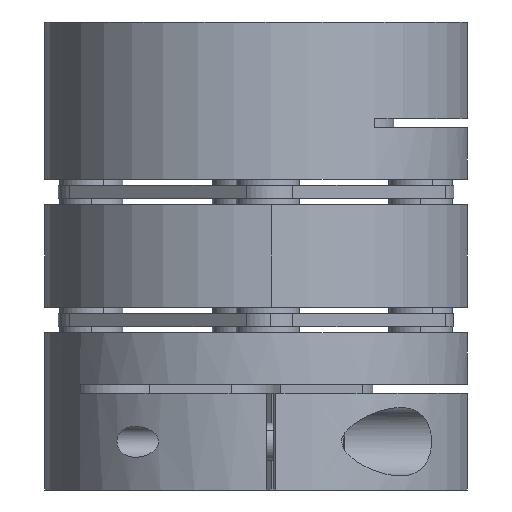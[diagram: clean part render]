
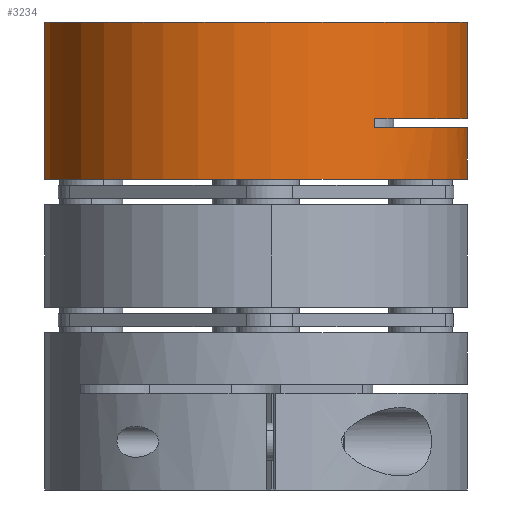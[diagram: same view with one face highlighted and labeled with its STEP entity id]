
A CAD part, front view. The second image highlights one B-rep face of the part: STEP entity #3234.
In plain terms, the highlighted cylindrical face has radius 34 mm (diameter 68 mm), a partial arc.
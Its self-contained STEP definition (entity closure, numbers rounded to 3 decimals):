
#568 = CARTESIAN_POINT ( 'NONE',  ( 11.468, 58.812, 92.727 ) ) ;
#1470 = CARTESIAN_POINT ( 'NONE',  ( 11.468, 58.812, 92.727 ) ) ;
#1622 = DIRECTION ( 'NONE',  ( 0., 0., -1. ) ) ;
#1629 = ORIENTED_EDGE ( 'NONE', *, *, #16061, .T. ) ;
#2198 = LINE ( 'NONE', #1470, #18557 ) ;
#2291 = EDGE_CURVE ( 'NONE', #6323, #14482, #12037, .T. ) ;
#3234 = ADVANCED_FACE ( 'NONE', ( #19142 ), #17121, .T. ) ;
#5124 = CIRCLE ( 'NONE', #17746, 34. ) ;
#5614 = EDGE_CURVE ( 'NONE', #18275, #16896, #5124, .T. ) ;
#5797 = CARTESIAN_POINT ( 'NONE',  ( -41.506, 84.521, 83.027 ) ) ;
#5803 = ORIENTED_EDGE ( 'NONE', *, *, #5614, .F. ) ;
#5972 = EDGE_CURVE ( 'NONE', #16896, #17310, #2198, .T. ) ;
#6032 = CARTESIAN_POINT ( 'NONE',  ( -41.506, 84.521, 108.227 ) ) ;
#6066 = CIRCLE ( 'NONE', #6526, 34. ) ;
#6124 = VECTOR ( 'NONE', #18124, 1000. ) ;
#6207 = CARTESIAN_POINT ( 'NONE',  ( -7.594, 86.967, 83.027 ) ) ;
#6323 = VERTEX_POINT ( 'NONE', #14211 ) ;
#6497 = EDGE_CURVE ( 'NONE', #6323, #17310, #18262, .T. ) ;
#6514 = CARTESIAN_POINT ( 'NONE',  ( -41.506, 84.521, 108.227 ) ) ;
#6526 = AXIS2_PLACEMENT_3D ( 'NONE', #17994, #8447, #19617 ) ;
#6597 = CARTESIAN_POINT ( 'NONE',  ( 11.468, 58.812, 91.227 ) ) ;
#7463 = AXIS2_PLACEMENT_3D ( 'NONE', #18976, #19178, #18424 ) ;
#7766 = DIRECTION ( 'NONE',  ( 0.997, 0.072, 0. ) ) ;
#8011 = ORIENTED_EDGE ( 'NONE', *, *, #16792, .F. ) ;
#8447 = DIRECTION ( 'NONE',  ( 0., 0., 1. ) ) ;
#8480 = DIRECTION ( 'NONE',  ( 0., 0., -1. ) ) ;
#9681 = CARTESIAN_POINT ( 'NONE',  ( 26.318, 89.412, 83.027 ) ) ;
#9686 = VERTEX_POINT ( 'NONE', #16747 ) ;
#10413 = AXIS2_PLACEMENT_3D ( 'NONE', #6207, #17286, #7766 ) ;
#11037 = VERTEX_POINT ( 'NONE', #6032 ) ;
#11275 = VECTOR ( 'NONE', #14587, 1000. ) ;
#11983 = ORIENTED_EDGE ( 'NONE', *, *, #2291, .F. ) ;
#12037 = LINE ( 'NONE', #18205, #6124 ) ;
#12392 = EDGE_CURVE ( 'NONE', #11037, #9686, #6066, .T. ) ;
#12504 = ORIENTED_EDGE ( 'NONE', *, *, #17171, .T. ) ;
#12879 = VECTOR ( 'NONE', #16032, 1000. ) ;
#12988 = CARTESIAN_POINT ( 'NONE',  ( 26.318, 89.412, 108.227 ) ) ;
#14018 = ORIENTED_EDGE ( 'NONE', *, *, #6497, .T. ) ;
#14211 = CARTESIAN_POINT ( 'NONE',  ( 26.318, 89.412, 91.227 ) ) ;
#14482 = VERTEX_POINT ( 'NONE', #9681 ) ;
#14587 = DIRECTION ( 'NONE',  ( 0., 0., -1. ) ) ;
#15353 = VERTEX_POINT ( 'NONE', #5797 ) ;
#15660 = ORIENTED_EDGE ( 'NONE', *, *, #5972, .F. ) ;
#15891 = EDGE_LOOP ( 'NONE', ( #8011, #16573, #1629, #12504, #11983, #14018, #15660, #5803 ) ) ;
#15962 = DIRECTION ( 'NONE',  ( -0.997, -0.072, 0. ) ) ;
#16030 = DIRECTION ( 'NONE',  ( 0., 0., -1. ) ) ;
#16032 = DIRECTION ( 'NONE',  ( 0., 0., -1. ) ) ;
#16061 = EDGE_CURVE ( 'NONE', #11037, #15353, #17611, .T. ) ;
#16098 = CARTESIAN_POINT ( 'NONE',  ( -7.594, 86.967, 92.727 ) ) ;
#16573 = ORIENTED_EDGE ( 'NONE', *, *, #12392, .F. ) ;
#16747 = CARTESIAN_POINT ( 'NONE',  ( 26.318, 89.412, 108.227 ) ) ;
#16792 = EDGE_CURVE ( 'NONE', #9686, #18275, #19760, .T. ) ;
#16896 = VERTEX_POINT ( 'NONE', #568 ) ;
#17121 = CYLINDRICAL_SURFACE ( 'NONE', #7463, 34. ) ;
#17171 = EDGE_CURVE ( 'NONE', #15353, #14482, #18699, .T. ) ;
#17286 = DIRECTION ( 'NONE',  ( 0., 0., 1. ) ) ;
#17310 = VERTEX_POINT ( 'NONE', #6597 ) ;
#17332 = CARTESIAN_POINT ( 'NONE',  ( 26.318, 89.412, 92.727 ) ) ;
#17611 = LINE ( 'NONE', #6514, #12879 ) ;
#17746 = AXIS2_PLACEMENT_3D ( 'NONE', #16098, #16030, #15962 ) ;
#17994 = CARTESIAN_POINT ( 'NONE',  ( -7.594, 86.967, 108.227 ) ) ;
#18041 = CARTESIAN_POINT ( 'NONE',  ( -7.594, 86.967, 91.227 ) ) ;
#18124 = DIRECTION ( 'NONE',  ( 0., 0., -1. ) ) ;
#18205 = CARTESIAN_POINT ( 'NONE',  ( 26.318, 89.412, 108.227 ) ) ;
#18262 = CIRCLE ( 'NONE', #18916, 34. ) ;
#18275 = VERTEX_POINT ( 'NONE', #17332 ) ;
#18424 = DIRECTION ( 'NONE',  ( -0.997, -0.072, 0. ) ) ;
#18557 = VECTOR ( 'NONE', #1622, 1000. ) ;
#18699 = CIRCLE ( 'NONE', #10413, 34. ) ;
#18916 = AXIS2_PLACEMENT_3D ( 'NONE', #18041, #8480, #19664 ) ;
#18976 = CARTESIAN_POINT ( 'NONE',  ( -7.594, 86.967, 108.227 ) ) ;
#19142 = FACE_OUTER_BOUND ( 'NONE', #15891, .T. ) ;
#19178 = DIRECTION ( 'NONE',  ( 0., 0., -1. ) ) ;
#19617 = DIRECTION ( 'NONE',  ( 0.997, 0.072, 0. ) ) ;
#19664 = DIRECTION ( 'NONE',  ( -0.997, -0.072, 0. ) ) ;
#19760 = LINE ( 'NONE', #12988, #11275 ) ;
